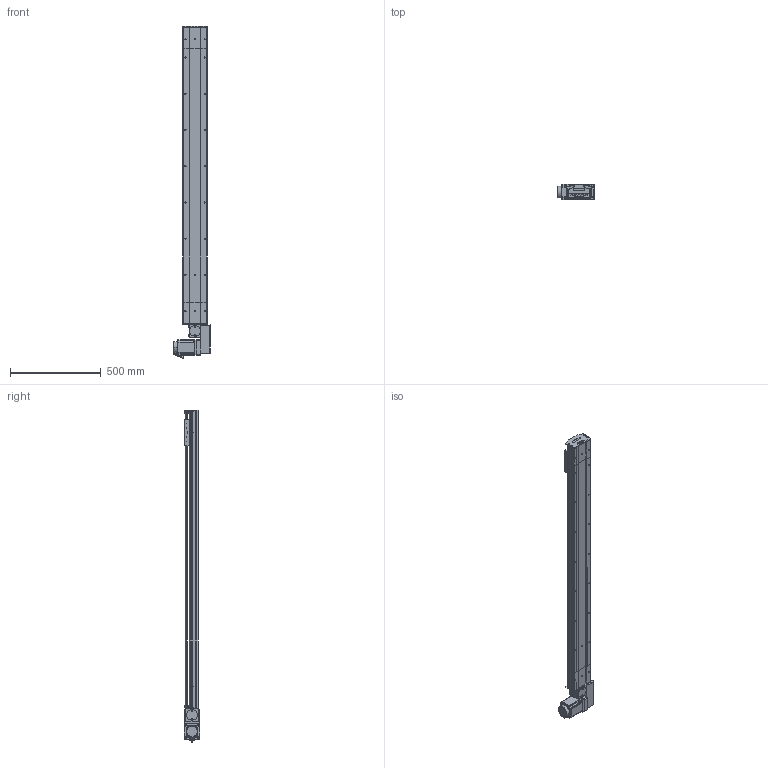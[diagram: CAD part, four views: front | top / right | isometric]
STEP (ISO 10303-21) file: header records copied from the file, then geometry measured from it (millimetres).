
FILE_DESCRIPTION (( 'STEP AP214' ), '1' );
FILE_NAME ('D14 TBH LH S1400.STEP', '2010-06-29T13:59:53', ( 'Conseil Régional Haute-Normandie' ), ( 'Conseil Régional Haute-Normandie' ), 'SwSTEP 2.0', 'SolidWorks 2010', '' );
FILE_SCHEMA (( 'AUTOMOTIVE_DESIGN' ));
Length unit declared in the file: millimetre
Products named in the file (39): tete d''axe haut D14; Cache arbre_Default; avant 90BLDC100A-640; Moteur motionking 90BLDC100A-640; Cache_Default; couvercle D14 head_Default; D14 TB H LH_Default; Couroie_Default; poulie tail_Default; corp head D14_Default; codeur 90BLDC100-640; corps 90BLDC100A-640; couroie 2_Default; Arbre+rail tail D14; Arbre+rail head D14; poulie head_Default; vis M5 L16_Default; Conecteur_Default; Conecteur2_Default; Plaque racord D14_Default; couvercle D14_Default; vis M5 L8 90°_Default; plaque de  bout head D14 LH_Default; guide D14; Chariot D14; Cvis M5 L70_Default; renvoi LH_Default; chariot D14B_Default; vis M5 L12_Default; vis M5 L5_Default; Vis M5 L16-2_Default; Tail D14B_Default; couvercle D14 course L1400_Default; Rail + couroie D14 Course 1400 ; plaque de  bout tail D14_Default; corpl 1400_Default; corpl tail D14_Default; D14 couroie L1400_Default; D14 TBH LH S1400
Assembly tree (68 placements, depth 4):
  D14 TBH LH S1400
    Tail D14B_Default
      vis M5 L12_Default  x4
      Couroie_Default
      couvercle D14_Default
      vis M5 L8 90°_Default  x2
      poulie tail_Default
      corpl tail D14_Default
      tete d''axe haut D14
      Arbre+rail tail D14
      vis M5 L16_Default  x2
      plaque de  bout tail D14_Default
    D14 couroie L1400_Default
      corpl 1400_Default
      Rail + couroie D14 Course 1400 
      couvercle D14 course L1400_Default
    D14 TB H LH_Default
      vis M5 L12_Default  x12
      Vis M5 L16-2_Default  x4
      vis M5 L5_Default  x2
      couvercle D14 head_Default
      couroie 2_Default
      Moteur motionking 90BLDC100A-640
        Conecteur_Default
        avant 90BLDC100A-640
        codeur 90BLDC100-640
        corps 90BLDC100A-640
        Conecteur2_Default
      Arbre+rail head D14
      Cvis M5 L70_Default  x4
      renvoi LH_Default
      plaque de  bout head D14 LH_Default
      Plaque racord D14_Default
      poulie head_Default
      Cache arbre_Default
      Cache_Default  x2
      corp head D14_Default
    chariot D14B_Default
      vis M5 L12_Default  x4
      guide D14  x2
      Chariot D14
Bounding box: 207.2 x 85.9 x 1832.45 mm (x, y, z)
Volume: 7303909.9 mm3; surface area: 2456976 mm2
Topology: 92 solids, 92 shells, 2645 faces, 6467 edges, 4170 vertices
Faces by surface type: plane 1593, cylinder 739, bspline 136, torus 89, cone 84, sphere 4
Entity records: 79640 total; most frequent: CARTESIAN_POINT 23621, ORIENTED_EDGE 9794, DIRECTION 9588, EDGE_CURVE 4897, LINE 3286, VECTOR 3286, VERTEX_POINT 3220, AXIS2_PLACEMENT_3D 3151
